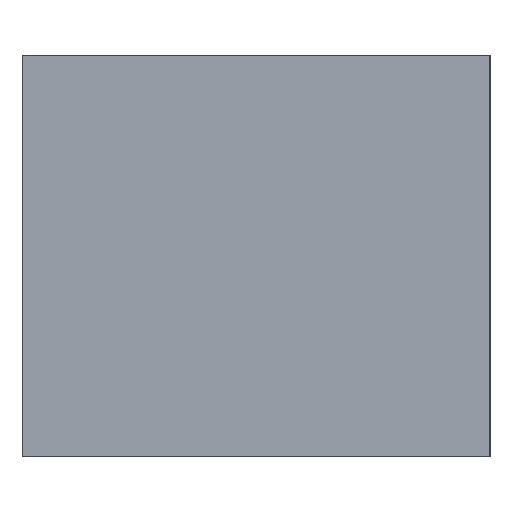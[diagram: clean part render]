
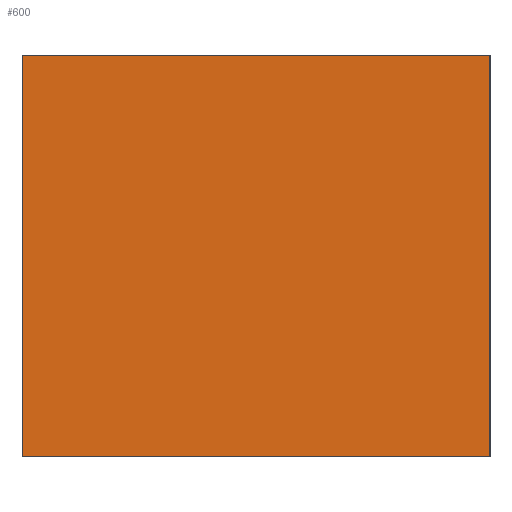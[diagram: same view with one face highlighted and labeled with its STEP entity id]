
A CAD part, left-side view. The second image highlights one B-rep face of the part: STEP entity #600.
In plain terms, the highlighted planar face has unit normal (-1, 0, 0).
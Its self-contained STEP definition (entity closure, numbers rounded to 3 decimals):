
#3 = CARTESIAN_POINT ( 'NONE',  ( -50.8, 44.45, 0. ) ) ;
#10 = FACE_OUTER_BOUND ( 'NONE', #362, .T. ) ;
#21 = ORIENTED_EDGE ( 'NONE', *, *, #316, .T. ) ;
#23 = EDGE_CURVE ( 'NONE', #551, #509, #324, .T. ) ;
#37 = LINE ( 'NONE', #641, #162 ) ;
#41 = AXIS2_PLACEMENT_3D ( 'NONE', #325, #257, #464 ) ;
#56 = VECTOR ( 'NONE', #367, 1000. ) ;
#84 = DIRECTION ( 'NONE',  ( 0., -1., 0. ) ) ;
#162 = VECTOR ( 'NONE', #219, 1000. ) ;
#219 = DIRECTION ( 'NONE',  ( 0., -1., 0. ) ) ;
#232 = ORIENTED_EDGE ( 'NONE', *, *, #23, .F. ) ;
#257 = DIRECTION ( 'NONE',  ( 1., 0., 0. ) ) ;
#258 = CARTESIAN_POINT ( 'NONE',  ( -50.8, 0., 38.1 ) ) ;
#262 = EDGE_CURVE ( 'NONE', #410, #551, #542, .T. ) ;
#316 = EDGE_CURVE ( 'NONE', #487, #509, #37, .T. ) ;
#324 = LINE ( 'NONE', #659, #56 ) ;
#325 = CARTESIAN_POINT ( 'NONE',  ( -50.8, 44.45, 38.1 ) ) ;
#362 = EDGE_LOOP ( 'NONE', ( #21, #232, #649, #459 ) ) ;
#367 = DIRECTION ( 'NONE',  ( 0., 0., -1. ) ) ;
#385 = VECTOR ( 'NONE', #84, 1000. ) ;
#409 = CARTESIAN_POINT ( 'NONE',  ( -50.8, 44.45, 38.1 ) ) ;
#410 = VERTEX_POINT ( 'NONE', #655 ) ;
#422 = PLANE ( 'NONE',  #41 ) ;
#426 = EDGE_CURVE ( 'NONE', #410, #487, #500, .T. ) ;
#458 = CARTESIAN_POINT ( 'NONE',  ( -50.8, 0., 0. ) ) ;
#459 = ORIENTED_EDGE ( 'NONE', *, *, #426, .T. ) ;
#464 = DIRECTION ( 'NONE',  ( 0., 1., 0. ) ) ;
#471 = VECTOR ( 'NONE', #607, 1000. ) ;
#487 = VERTEX_POINT ( 'NONE', #3 ) ;
#500 = LINE ( 'NONE', #409, #471 ) ;
#509 = VERTEX_POINT ( 'NONE', #458 ) ;
#542 = LINE ( 'NONE', #590, #385 ) ;
#551 = VERTEX_POINT ( 'NONE', #258 ) ;
#590 = CARTESIAN_POINT ( 'NONE',  ( -50.8, 44.45, 38.1 ) ) ;
#600 = ADVANCED_FACE ( 'NONE', ( #10 ), #422, .F. ) ;
#607 = DIRECTION ( 'NONE',  ( 0., 0., -1. ) ) ;
#641 = CARTESIAN_POINT ( 'NONE',  ( -50.8, 44.45, 0. ) ) ;
#649 = ORIENTED_EDGE ( 'NONE', *, *, #262, .F. ) ;
#655 = CARTESIAN_POINT ( 'NONE',  ( -50.8, 44.45, 38.1 ) ) ;
#659 = CARTESIAN_POINT ( 'NONE',  ( -50.8, 0., 38.1 ) ) ;
